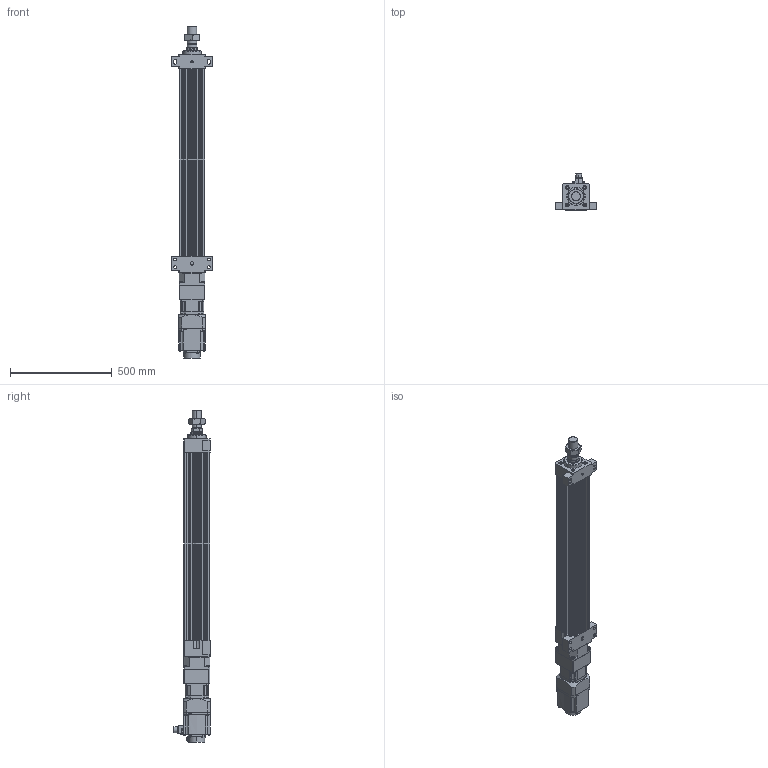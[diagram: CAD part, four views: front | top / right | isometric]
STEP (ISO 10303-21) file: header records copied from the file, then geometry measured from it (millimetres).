
FILE_DESCRIPTION (( 'STEP AP203' ), '1' );
FILE_NAME ('HES130NS(FS)(HS)-S700-W015G00-M-FFB.STEP', '2023-01-30T09:28:40', ( 'tms' ), ( '' ), 'SwSTEP 2.0', 'SolidWorks 2013', '' );
FILE_SCHEMA (( 'CONFIG_CONTROL_DESIGN' ));
Length unit declared in the file: millimetre
Products named in the file (8): HES130 ROD M ST700; AB1151; HG-SR152; M45X1.5P; HES130-S700-G120-FFB; AB115-003[HG-SR152]; P0401400706; HES130NS(FS)(HS)-S700-W015G00-M-FFB
Assembly tree (7 placements, depth 3):
  HES130NS(FS)(HS)-S700-W015G00-M-FFB
    HES130-S700-G120-FFB
    HES130 ROD M ST700
    M45X1.5P
    AB115-003[HG-SR152]
      AB1151
      P0401400706
    HG-SR152
Bounding box: 200 x 177.49 x 1629.5 mm (x, y, z)
Volume: 13046688.1 mm3; surface area: 1724791.7 mm2
Topology: 4 solids, 15 shells, 1211 faces, 3070 edges, 1998 vertices
Faces by surface type: plane 571, cylinder 546, cone 82, bspline 8, torus 4
Entity records: 38310 total; most frequent: CARTESIAN_POINT 7264, DIRECTION 6633, ORIENTED_EDGE 6092, EDGE_CURVE 3056, AXIS2_PLACEMENT_3D 2435, VERTEX_POINT 1998, LINE 1763, VECTOR 1763
